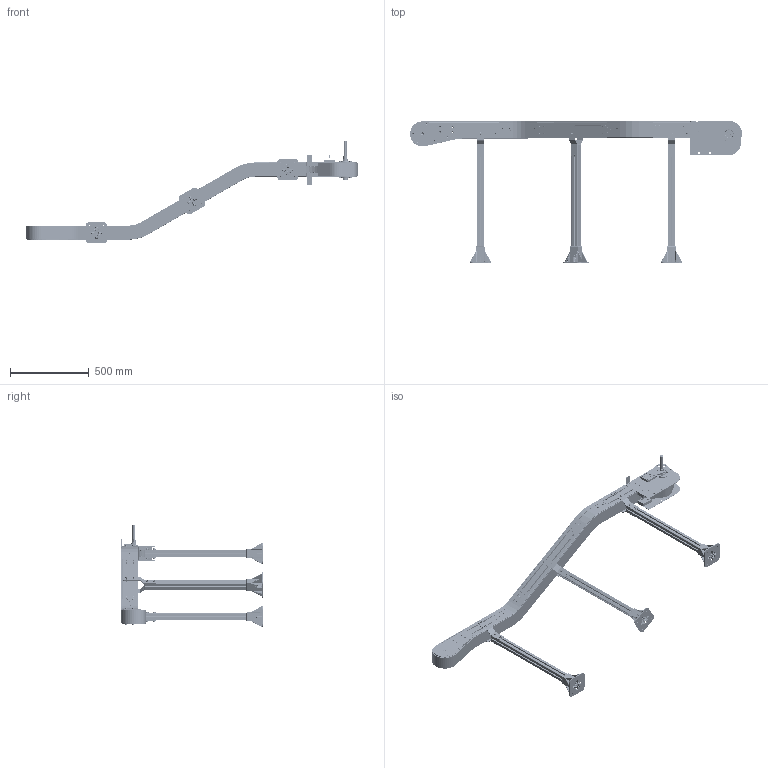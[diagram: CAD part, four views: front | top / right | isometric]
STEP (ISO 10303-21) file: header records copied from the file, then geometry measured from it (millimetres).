
FILE_DESCRIPTION (( 'STEP AP203' ), '1' );
FILE_NAME ('NASTRO_CATENA.step', '2026-04-29T11:25:08', ( 'Utente Windows' ), ( '' ), 'SwSTEP 2.0', 'SolidWorks 2024', '' );
FILE_SCHEMA (( 'CONFIG_CONTROL_DESIGN' ));
Length unit declared in the file: millimetre
Products named in the file (65): 2000.882.750; K325_6_Default<A macchina>; 084.302.000 DADI ALUSIC 13x13-1_084.302.009; 2000.325.107; VITI TSEI UNI 5933 INOX_0410UNI5933A2; K325_30°_S_P; 2000.001.004-3; VITI TE UNI 5739 INOX_M6x20 UNI 5739 INOX; CATENA_SSX; K325_2_Default<A macchina>; PROFILO POLIZENE_209<A macchina>; K325_30°_D_P; 084.302.000 DADI ALUSIC 13x13-1_084.302.004; Circlip DIN 471 - 25 x 1.2_Circlip DIN 471 - 25 x 1.2; 2000.325.443; 2000.325.205-4; VITI TSEI UNI 5933 INOX_0820UNI5933A2; 2000.325.104-2; 2000.325.001_Default<Lavorato>; 2000.001.402; 2000.001.003-3; GRANI A PUNTA CONICA UNI 5927 INOX_M8x14 UNI 5927 INOX; 084.302.000 DADI ALUSIC 13x13-1_084.302.008; 2000.325.442_2000.1200.490; 084.301.000 VITI ALUSIC_084.301.002; BASE_GAMBE_KB325; VITI TE UNI 5739 INOX_M6x30 UNI 5739 INOX; FLANGIA_GAMBE_KP325; 2000.325.620; NASTRO_CATENA; 084.301.000 VITI ALUSIC1_084.301.003; 2000.001.011; 2000.001.001; 2000.001.202-3; 2000.001.002; 2000.001.201-3; 2000.001.006-2; 663151_NS880T12R25; 084.409.002; 2000.325.003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
Assembly tree (240 placements, depth 4):
  NASTRO_CATENA
    K325_1_Default<A macchina>
    K325_2_Default<A macchina>
    K325_6_Default<A macchina>
    K325_DIR_SA37_P_SX_MOTORE A DESTRA
      2000.001.006-2  x2
      2000.325.003  x2
      2000.325.107
      2000.001.001  x2
      2000.325.001_Default<Lavorato>  x2
      084.808.011
      2000.325.104-2
      2000.001.004-3
      2000.001.026  x2
      2000.001.003-3
      2000.001.011
      2000.325.105-2
      SBPF205  x2
      663151_NS880T12R25
      VITI TSEI UNI 5933 INOX_0410UNI5933A2  x8
      GRANI A PUNTA CONICA UNI 5927_M8x16 UNI 5927  x8
      VITI TCEI UNI 5931 INOX_M6x30 UNI 5931 INOX  x2
      Circlip DIN 471 - 25 x 1.2_Circlip DIN 471 - 25 x 1.2
      VITI TE UNI 5739 INOX_M8x16 UNI 5739 INOX  x7
      DADI ESAGONALI AUTOBLOCCANTI UNI 7473 INOX_M6 UNI 7473 INOX  x4
      084.312.006  x6
      PU008.012.025N
      VITI TE UNI 5739 INOX_M6x30 UNI 5739 INOX  x4
      VITI TE UNI 5739 INOX_M6x20 UNI 5739 INOX  x4
    K325_30°_D_P
      2000.325.442_2000.1200.490  x2
      2000.325.429_Default<A macchina>  x2
      2000.001.402  x4
      2000.325.444
      2000.325.443
      VITI TSEI UNI 5933 INOX_0620UNI5933A2  x8
      VITI TSEI UNI 5933 INOX_0820UNI5933A2  x8
      084.302.000 DADI ALUSIC 13x13-1_084.302.008  x8
      GRANI A PUNTA CONICA UNI 5927 INOX_M8x14 UNI 5927 INOX  x16
    K325_30°_S_P
      2000.325.442_2000.1200.490  x2
      2000.325.429_Default<A macchina>  x2
      2000.001.402  x4
      2000.325.444
      2000.325.443
      VITI TSEI UNI 5933 INOX_0620UNI5933A2  x8
      VITI TSEI UNI 5933 INOX_0820UNI5933A2  x8
      084.302.000 DADI ALUSIC 13x13-1_084.302.008  x8
      GRANI A PUNTA CONICA UNI 5927 INOX_M8x14 UNI 5927 INOX  x16
    K325_R_P
      2000.001.201-3
      2000.001.202-3
      PROFILO POLIZENE_209<A macchina>  x2
      2000.325.201-1S
      2000.325.205-4
      2000.325.204-4
      2000.001.002  x2
      2000.001.001  x2
      2000.325.001_Default<Lavorato>  x2
      2000.001.213
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Bounding box: 2104.29 x 900.12 x 650.59 mm (x, y, z)
Volume: 14391010.7 mm3; surface area: 7022936.7 mm2
Topology: 408 solids, 417 shells, 10995 faces, 27302 edges, 17361 vertices
Faces by surface type: plane 5542, cylinder 3552, cone 1114, torus 588, bspline 199
Entity records: 119178 total; most frequent: CARTESIAN_POINT 20942, DIRECTION 18863, ORIENTED_EDGE 17592, EDGE_CURVE 8807, AXIS2_PLACEMENT_3D 6697, VERTEX_POINT 5545, LINE 5469, VECTOR 5469
